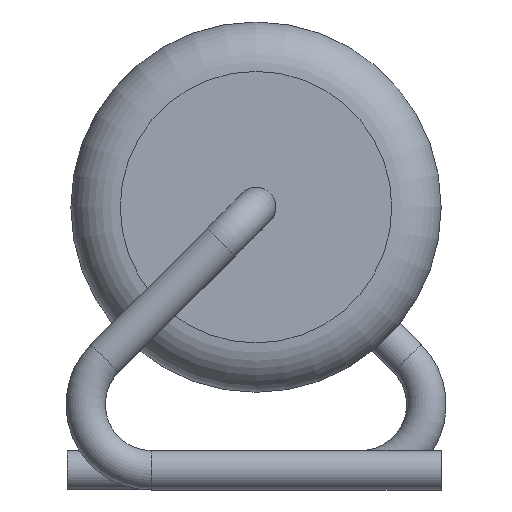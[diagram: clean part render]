
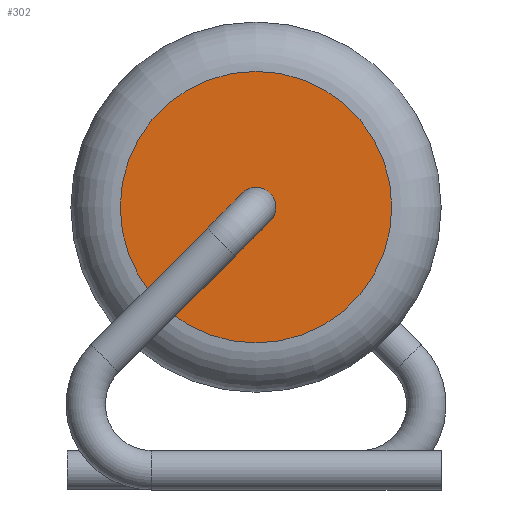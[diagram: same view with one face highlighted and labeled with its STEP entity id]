
A CAD part, left-side view. The second image highlights one B-rep face of the part: STEP entity #302.
In plain terms, the highlighted planar face has unit normal (-1, 0, 0).
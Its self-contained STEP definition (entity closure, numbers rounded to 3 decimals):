
#47=PLANE('',#359);
#65=FACE_BOUND('',#133,.T.);
#90=FACE_OUTER_BOUND('',#132,.T.);
#132=EDGE_LOOP('',(#267));
#133=EDGE_LOOP('',(#268));
#150=CIRCLE('',#334,0.4);
#162=CIRCLE('',#356,2.75);
#175=VERTEX_POINT('',#535);
#187=VERTEX_POINT('',#569);
#203=EDGE_CURVE('',#175,#175,#150,.T.);
#215=EDGE_CURVE('',#187,#187,#162,.T.);
#267=ORIENTED_EDGE('',*,*,#215,.F.);
#268=ORIENTED_EDGE('',*,*,#203,.T.);
#302=ADVANCED_FACE('',(#90,#65),#47,.T.);
#334=AXIS2_PLACEMENT_3D('',#536,#406,#407);
#356=AXIS2_PLACEMENT_3D('',#570,#450,#451);
#359=AXIS2_PLACEMENT_3D('',#574,#456,#457);
#406=DIRECTION('center_axis',(1.,0.,0.));
#407=DIRECTION('ref_axis',(0.,-1.,0.));
#450=DIRECTION('center_axis',(1.,0.,0.));
#451=DIRECTION('ref_axis',(0.,0.,-1.));
#456=DIRECTION('center_axis',(-1.,0.,0.));
#457=DIRECTION('ref_axis',(0.,0.,1.));
#535=CARTESIAN_POINT('',(-9.,0.4,0.));
#536=CARTESIAN_POINT('Origin',(-9.,0.,0.));
#569=CARTESIAN_POINT('',(-9.,0.,2.75));
#570=CARTESIAN_POINT('Origin',(-9.,0.,0.));
#574=CARTESIAN_POINT('Origin',(-9.,0.,1.875));
